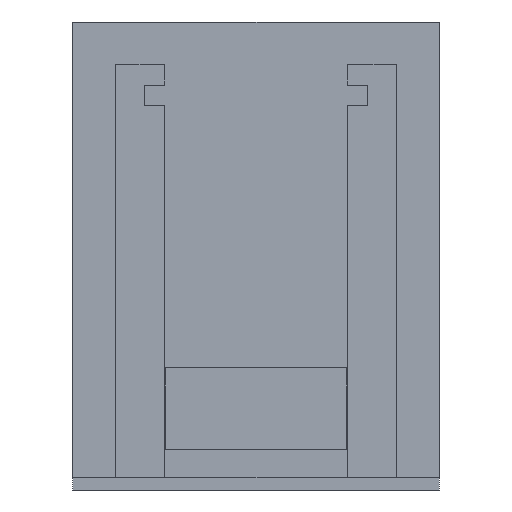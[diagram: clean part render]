
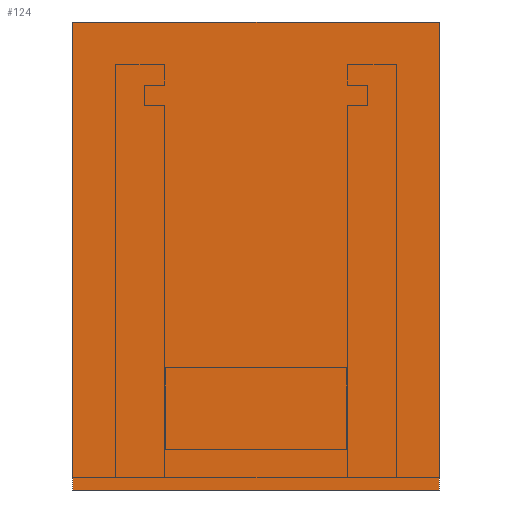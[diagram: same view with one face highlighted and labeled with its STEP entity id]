
A CAD part, left-side view. The second image highlights one B-rep face of the part: STEP entity #124.
In plain terms, the highlighted planar face has unit normal (-1, 0, 0).
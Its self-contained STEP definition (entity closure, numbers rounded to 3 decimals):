
#124 = ADVANCED_FACE ( 'NONE', ( #1045 ), #2239, .T. ) ;
#306 = CARTESIAN_POINT ( 'NONE',  ( -300., -45., 82. ) ) ;
#308 = CARTESIAN_POINT ( 'NONE',  ( -300., 45., 82. ) ) ;
#326 = CARTESIAN_POINT ( 'NONE',  ( -300., -45., -33. ) ) ;
#329 = CARTESIAN_POINT ( 'NONE',  ( -300., 45., -33. ) ) ;
#462 = CARTESIAN_POINT ( 'NONE',  ( -300., 0., -33. ) ) ;
#476 = DIRECTION ( 'NONE',  ( 0., -1., 0. ) ) ;
#483 = DIRECTION ( 'NONE',  ( 0., 0., -1. ) ) ;
#484 = CARTESIAN_POINT ( 'NONE',  ( -300., 45., -31.5 ) ) ;
#496 = DIRECTION ( 'NONE',  ( 0., 1., 0. ) ) ;
#502 = DIRECTION ( 'NONE',  ( 0., 0., 1. ) ) ;
#509 = CARTESIAN_POINT ( 'NONE',  ( -300., 45., 82. ) ) ;
#521 = CARTESIAN_POINT ( 'NONE',  ( -300., -45., -31.5 ) ) ;
#1045 = FACE_OUTER_BOUND ( 'NONE', #1483, .T. ) ;
#1314 = EDGE_CURVE ( 'NONE', #1896, #1899, #2745, .T. ) ;
#1355 = EDGE_CURVE ( 'NONE', #1899, #1918, #2802, .T. ) ;
#1358 = EDGE_CURVE ( 'NONE', #1918, #1916, #2806, .T. ) ;
#1363 = EDGE_CURVE ( 'NONE', #1916, #1896, #2822, .T. ) ;
#1483 = EDGE_LOOP ( 'NONE', ( #3107, #3106, #3105, #3104 ) ) ;
#1896 = VERTEX_POINT ( 'NONE', #329 ) ;
#1899 = VERTEX_POINT ( 'NONE', #326 ) ;
#1916 = VERTEX_POINT ( 'NONE', #308 ) ;
#1918 = VERTEX_POINT ( 'NONE', #306 ) ;
#1938 = AXIS2_PLACEMENT_3D ( 'NONE', #2243, #2238, #2233 ) ;
#2233 = DIRECTION ( 'NONE',  ( 0., 0., 1. ) ) ;
#2238 = DIRECTION ( 'NONE',  ( -1., 0., 0. ) ) ;
#2239 = PLANE ( 'NONE',  #1938 ) ;
#2243 = CARTESIAN_POINT ( 'NONE',  ( -300., 0., 1.5 ) ) ;
#2745 = LINE ( 'NONE', #462, #2751 ) ;
#2751 = VECTOR ( 'NONE', #476, 1000. ) ;
#2802 = LINE ( 'NONE', #521, #2809 ) ;
#2806 = LINE ( 'NONE', #509, #2815 ) ;
#2809 = VECTOR ( 'NONE', #502, 1000. ) ;
#2815 = VECTOR ( 'NONE', #496, 1000. ) ;
#2822 = LINE ( 'NONE', #484, #2825 ) ;
#2825 = VECTOR ( 'NONE', #483, 1000. ) ;
#3104 = ORIENTED_EDGE ( 'NONE', *, *, #1363, .T. ) ;
#3105 = ORIENTED_EDGE ( 'NONE', *, *, #1358, .T. ) ;
#3106 = ORIENTED_EDGE ( 'NONE', *, *, #1355, .T. ) ;
#3107 = ORIENTED_EDGE ( 'NONE', *, *, #1314, .T. ) ;
